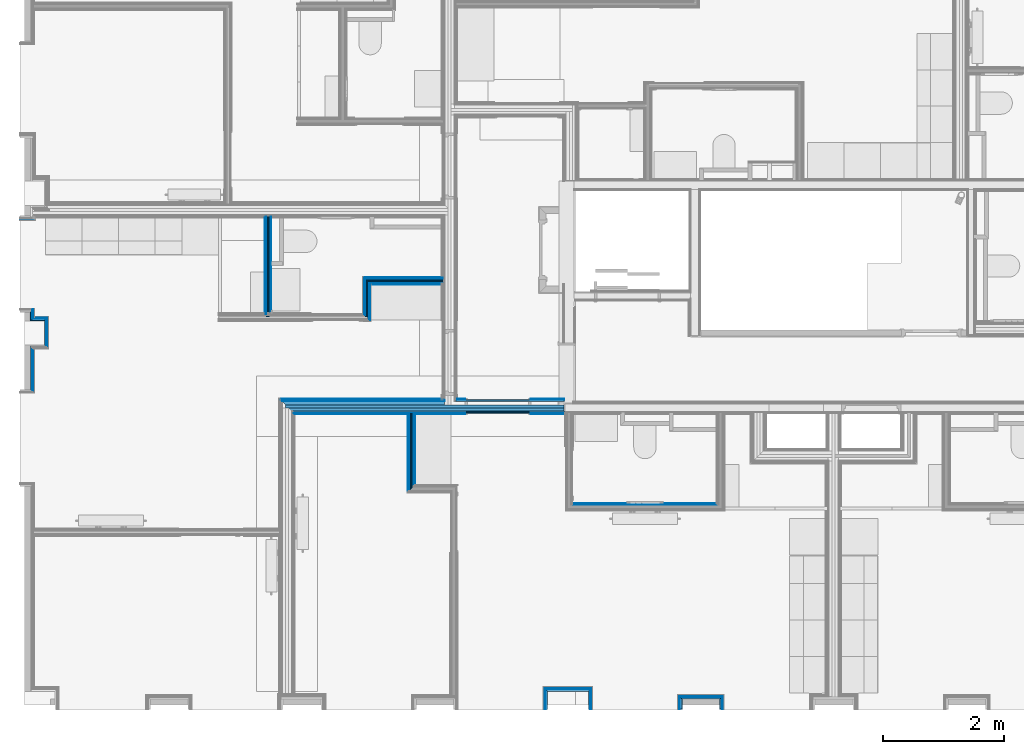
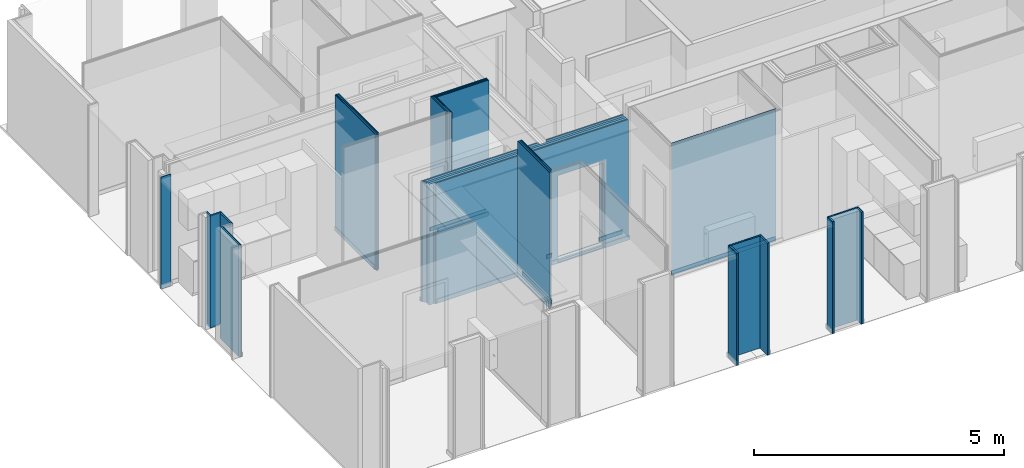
# One storey, part 13 of 65: 61 building element parts, 1 opening, 17 elements without a shape of their own.
"""IFC2X3 building model written with IfcOpenShell, lengths in metres."""

from ifc_helpers import new_model, entity, si_unit, converted_unit, derived_unit, money_unit, direction, frame, frame_2d, origin_with_axes, place, context, subcontext, project, spatial, polyline, rectangle, outline, extrude, material, type_object, element, aggregate, save


model = new_model("IFC2X3")

# Units and contexts
model_context = context("Model", 3, precision=1e-05, world=origin_with_axes(), true_north=direction((0.0, 1.0)))
body_context = subcontext(model_context, "Body", "Model", "MODEL_VIEW", scale=1.0)
ifc_project = project(units=[si_unit("LENGTHUNIT", "METRE"), si_unit("AREAUNIT", "SQUARE_METRE"), si_unit("VOLUMEUNIT", "CUBIC_METRE"), si_unit("ABSORBEDDOSEUNIT", "GRAY"), si_unit("AMOUNTOFSUBSTANCEUNIT", "MOLE"), si_unit("DOSEEQUIVALENTUNIT", "SIEVERT"), si_unit("ELECTRICCAPACITANCEUNIT", "FARAD"), si_unit("ELECTRICCHARGEUNIT", "COULOMB"), si_unit("ELECTRICCONDUCTANCEUNIT", "SIEMENS"), si_unit("ELECTRICCURRENTUNIT", "AMPERE"), si_unit("ELECTRICRESISTANCEUNIT", "OHM"), si_unit("ELECTRICVOLTAGEUNIT", "VOLT"), si_unit("ENERGYUNIT", "JOULE"), si_unit("FORCEUNIT", "NEWTON"), si_unit("FREQUENCYUNIT", "HERTZ"), si_unit("ILLUMINANCEUNIT", "LUX"), si_unit("INDUCTANCEUNIT", "HENRY"), si_unit("LUMINOUSFLUXUNIT", "LUMEN"), si_unit("LUMINOUSINTENSITYUNIT", "CANDELA"), si_unit("MAGNETICFLUXDENSITYUNIT", "TESLA"), si_unit("MAGNETICFLUXUNIT", "WEBER"), si_unit("MASSUNIT", "GRAM"), converted_unit("PLANEANGLEUNIT", "degree", entity("IfcReal", 0.0174532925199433), si_unit("PLANEANGLEUNIT", "RADIAN"), dimensions=[0, 0, 0, 0, 0, 0, 0]), si_unit("POWERUNIT", "WATT"), si_unit("PRESSUREUNIT", "PASCAL"), si_unit("RADIOACTIVITYUNIT", "BECQUEREL"), si_unit("SOLIDANGLEUNIT", "STERADIAN"), si_unit("THERMODYNAMICTEMPERATUREUNIT", "KELVIN"), si_unit("TIMEUNIT", "SECOND"), derived_unit("ACCELERATIONUNIT", [(si_unit("LENGTHUNIT", "METRE"), 1), (si_unit("TIMEUNIT", "SECOND"), -2)]), derived_unit("ANGULARVELOCITYUNIT", [(converted_unit("PLANEANGLEUNIT", "degree", entity("IfcReal", 0.0174532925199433), si_unit("PLANEANGLEUNIT", "RADIAN"), dimensions=[0, 0, 0, 0, 0, 0, 0]), 1), (si_unit("TIMEUNIT", "SECOND"), -1)]), derived_unit("CURVATUREUNIT", [(converted_unit("PLANEANGLEUNIT", "degree", entity("IfcReal", 0.0174532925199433), si_unit("PLANEANGLEUNIT", "RADIAN"), dimensions=[0, 0, 0, 0, 0, 0, 0]), 1), (si_unit("LENGTHUNIT", "METRE"), -1)]), derived_unit("DYNAMICVISCOSITYUNIT", [(si_unit("PRESSUREUNIT", "PASCAL"), 1), (si_unit("TIMEUNIT", "SECOND"), 1)]), derived_unit("HEATFLUXDENSITYUNIT", [(si_unit("POWERUNIT", "WATT"), 1), (si_unit("LENGTHUNIT", "METRE"), -2)]), derived_unit("HEATINGVALUEUNIT", [(si_unit("ENERGYUNIT", "JOULE"), 1), (si_unit("MASSUNIT", "GRAM"), -1)]), derived_unit("INTEGERCOUNTRATEUNIT", [(si_unit("TIMEUNIT", "SECOND"), -1)]), derived_unit("IONCONCENTRATIONUNIT", [(si_unit("MASSUNIT", "GRAM"), 1), (si_unit("VOLUMEUNIT", "CUBIC_METRE"), -1)]), derived_unit("ISOTHERMALMOISTURECAPACITYUNIT", [(si_unit("VOLUMEUNIT", "CUBIC_METRE"), 1), (si_unit("MASSUNIT", "GRAM"), -1)]), derived_unit("KINEMATICVISCOSITYUNIT", [(si_unit("AREAUNIT", "SQUARE_METRE"), 1), (si_unit("TIMEUNIT", "SECOND"), -1)]), derived_unit("LINEARFORCEUNIT", [(si_unit("FORCEUNIT", "NEWTON"), 1), (si_unit("LENGTHUNIT", "METRE"), -1)]), derived_unit("LINEARMOMENTUNIT", [(si_unit("FORCEUNIT", "NEWTON"), 1), (si_unit("LENGTHUNIT", "METRE"), -1)]), derived_unit("LINEARSTIFFNESSUNIT", [(si_unit("FORCEUNIT", "NEWTON"), 1), (si_unit("LENGTHUNIT", "METRE"), -1)]), derived_unit("LINEARVELOCITYUNIT", [(si_unit("LENGTHUNIT", "METRE"), 1), (si_unit("TIMEUNIT", "SECOND"), -1)]), derived_unit("LUMINOUSINTENSITYDISTRIBUTIONUNIT", [(si_unit("LUMINOUSINTENSITYUNIT", "CANDELA"), 1), (si_unit("LUMINOUSFLUXUNIT", "LUMEN"), -1)]), derived_unit("MASSDENSITYUNIT", [(si_unit("MASSUNIT", "GRAM"), 1), (si_unit("VOLUMEUNIT", "CUBIC_METRE"), -1)]), derived_unit("MASSFLOWRATEUNIT", [(si_unit("MASSUNIT", "GRAM"), 1), (si_unit("TIMEUNIT", "SECOND"), -1)]), derived_unit("MASSPERLENGTHUNIT", [(si_unit("MASSUNIT", "GRAM"), 1), (si_unit("LENGTHUNIT", "METRE"), -1)]), derived_unit("MODULUSOFELASTICITYUNIT", [(si_unit("FORCEUNIT", "NEWTON"), 1), (si_unit("AREAUNIT", "SQUARE_METRE"), -1)]), derived_unit("MODULUSOFLINEARSUBGRADEREACTIONUNIT", [(si_unit("FORCEUNIT", "NEWTON"), 1), (si_unit("LENGTHUNIT", "METRE"), -2)]), derived_unit("MODULUSOFROTATIONALSUBGRADEREACTIONUNIT", [(si_unit("FORCEUNIT", "NEWTON"), 1), (si_unit("LENGTHUNIT", "METRE"), 1)]), derived_unit("MODULUSOFSUBGRADEREACTIONUNIT", [(si_unit("FORCEUNIT", "NEWTON"), 1), (si_unit("VOLUMEUNIT", "CUBIC_METRE"), -1)]), derived_unit("MOISTUREDIFFUSIVITYUNIT", [(si_unit("VOLUMEUNIT", "CUBIC_METRE"), 1), (si_unit("TIMEUNIT", "SECOND"), -1)]), derived_unit("MOLECULARWEIGHTUNIT", [(si_unit("MASSUNIT", "GRAM"), 1), (si_unit("AMOUNTOFSUBSTANCEUNIT", "MOLE"), -1)]), derived_unit("PLANARFORCEUNIT", [(si_unit("FORCEUNIT", "NEWTON"), 1), (si_unit("LENGTHUNIT", "METRE"), -2)]), derived_unit("ROTATIONALFREQUENCYUNIT", [(si_unit("TIMEUNIT", "SECOND"), -1)]), derived_unit("ROTATIONALMASSUNIT", [(si_unit("MASSUNIT", "GRAM"), 1), (si_unit("LENGTHUNIT", "METRE"), 2)]), derived_unit("ROTATIONALSTIFFNESSUNIT", [(si_unit("FORCEUNIT", "NEWTON"), 1), (si_unit("LENGTHUNIT", "METRE"), 1), (converted_unit("PLANEANGLEUNIT", "degree", entity("IfcReal", 0.0174532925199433), si_unit("PLANEANGLEUNIT", "RADIAN"), dimensions=[0, 0, 0, 0, 0, 0, 0]), -1)]), derived_unit("SECTIONAREAINTEGRALUNIT", [(si_unit("LENGTHUNIT", "METRE"), 5)]), derived_unit("SECTIONMODULUSUNIT", [(si_unit("LENGTHUNIT", "METRE"), 3)]), derived_unit("SHEARMODULUSUNIT", [(si_unit("FORCEUNIT", "NEWTON"), 1), (si_unit("AREAUNIT", "SQUARE_METRE"), -1)]), derived_unit("SOUNDPOWERUNIT", [(si_unit("ENERGYUNIT", "JOULE"), 1), (si_unit("TIMEUNIT", "SECOND"), -1)]), derived_unit("SPECIFICHEATCAPACITYUNIT", [(si_unit("FORCEUNIT", "NEWTON"), 1), (si_unit("MASSUNIT", "GRAM"), -1), (si_unit("THERMODYNAMICTEMPERATUREUNIT", "KELVIN"), -1)]), derived_unit("TEMPERATUREGRADIENTUNIT", [(si_unit("THERMODYNAMICTEMPERATUREUNIT", "KELVIN"), 1), (si_unit("LENGTHUNIT", "METRE"), -1)]), derived_unit("THERMALADMITTANCEUNIT", [(si_unit("POWERUNIT", "WATT"), 1), (si_unit("AREAUNIT", "SQUARE_METRE"), -1), (si_unit("THERMODYNAMICTEMPERATUREUNIT", "KELVIN"), -1)]), derived_unit("THERMALCONDUCTANCEUNIT", [(si_unit("POWERUNIT", "WATT"), 1), (si_unit("LENGTHUNIT", "METRE"), -1), (si_unit("THERMODYNAMICTEMPERATUREUNIT", "KELVIN"), -1)]), derived_unit("THERMALEXPANSIONCOEFFICIENTUNIT", [(si_unit("THERMODYNAMICTEMPERATUREUNIT", "KELVIN"), -1)]), derived_unit("THERMALRESISTANCEUNIT", [(si_unit("AREAUNIT", "SQUARE_METRE"), 1), (si_unit("POWERUNIT", "WATT"), -1)]), derived_unit("THERMALTRANSMITTANCEUNIT", [(si_unit("POWERUNIT", "WATT"), 1), (si_unit("AREAUNIT", "SQUARE_METRE"), -1), (si_unit("THERMODYNAMICTEMPERATUREUNIT", "KELVIN"), -1)]), derived_unit("TORQUEUNIT", [(si_unit("FORCEUNIT", "NEWTON"), 1), (si_unit("LENGTHUNIT", "METRE"), 1)]), derived_unit("VAPORPERMEABILITYUNIT", [(si_unit("MASSUNIT", "GRAM"), 1), (si_unit("TIMEUNIT", "SECOND"), -1)]), derived_unit("VOLUMETRICFLOWRATEUNIT", [(si_unit("VOLUMEUNIT", "CUBIC_METRE"), 1), (si_unit("TIMEUNIT", "SECOND"), -1)]), derived_unit("WARPINGCONSTANTUNIT", [(si_unit("LENGTHUNIT", "METRE"), 6)]), derived_unit("WARPINGMOMENTUNIT", [(si_unit("FORCEUNIT", "NEWTON"), 1), (si_unit("LENGTHUNIT", "METRE"), 2)]), money_unit("GBP")], contexts=[model_context])

# Site, building, storey
site_placement = place(None, origin_with_axes())
site = spatial("IfcSite", under=ifc_project, at=site_placement, Name="Site", CompositionType="ELEMENT")
building_placement = place(site_placement, origin_with_axes())
building = spatial("IfcBuilding", under=site, at=building_placement, Name="Building01", CompositionType="ELEMENT")
storey_placement = place(building_placement, frame((0.0, 0.0, 8.64), z_axis=(0.0, 0.0, 1.0), x_axis=(1.0, 0.0, 0.0)))
storey = spatial("IfcBuildingStorey", under=building, at=storey_placement, Name="2F", CompositionType="ELEMENT", Elevation=8.64)

# Wall, building element parts
wall_type_1 = type_object("IfcWallType", Name="SHE_A-Walls_Type06d_ExternalWallInsulation_48mm", PredefinedType="NOTDEFINED")
wall_1_placement = place(storey_placement, frame((0.27, 6.64418, 0.0), z_axis=(0.0, 0.0, 1.0), x_axis=(0.0, -1.0, 0.0)))
wall_1 = element("IfcWall", 1, at=wall_1_placement, inside=storey, type_object=wall_type_1, Name="6D", ObjectType="SHE_A-Walls_Type06d_ExternalWallInsulation_48mm")
ifc_material_1 = material(Name="A_BSUK_Insulation")
placement_1 = place(wall_1_placement, origin_with_axes())
building_element_part_1 = element("IfcBuildingElementPart", 2, at=placement_1, material=ifc_material_1, Name="1", context=body_context, shape_type="SweptSolid", body=[
    extrude(outline(polyline([(0.10818, 0.036), (-0.036, 0.036), (0.0, 0.0), (0.14418, 0.0), (0.10818, 0.036)])), origin_with_axes(), (0.0, 0.0, 1.0), 2.74),
])
ifc_material_2 = material(Name="A_BSUK_WallInternal_Finishes_Plasterboard")
building_element_part_2 = element("IfcBuildingElementPart", 3, at=placement_1, material=ifc_material_2, Name="2", context=body_context, shape_type="SweptSolid", body=[
    extrude(outline(polyline([(0.09618, 0.048), (-0.048, 0.048), (-0.035, 0.035), (0.10918, 0.035), (0.09618, 0.048)])), origin_with_axes(), (0.0, 0.0, 1.0), 2.74),
])
aggregate(wall_1, [building_element_part_1, building_element_part_2])

wall_2_placement = place(storey_placement, frame((0.27, 6.5, 0.0), z_axis=(0.0, 0.0, 1.0), x_axis=(1.0, 0.0, 0.0)))
wall_2 = element("IfcWall", 4, at=wall_2_placement, inside=storey, type_object=wall_type_1, Name="6D", ObjectType="SHE_A-Walls_Type06d_ExternalWallInsulation_48mm")
placement_2 = place(wall_2_placement, origin_with_axes())
building_element_part_3 = element("IfcBuildingElementPart", 5, at=placement_2, material=ifc_material_1, Name="1", context=body_context, shape_type="SweptSolid", body=[
    extrude(outline(polyline([(0.266, 0.036), (0.036, 0.036), (0.0, 0.0), (0.23, 0.0), (0.266, 0.036)])), origin_with_axes(), (0.0, 0.0, 1.0), 2.74),
])
building_element_part_4 = element("IfcBuildingElementPart", 6, at=placement_2, material=ifc_material_2, Name="2", context=body_context, shape_type="SweptSolid", body=[
    extrude(outline(polyline([(0.278, 0.048), (0.048, 0.048), (0.035, 0.035), (0.265, 0.035), (0.278, 0.048)])), origin_with_axes(), (0.0, 0.0, 1.0), 2.74),
])
aggregate(wall_2, [building_element_part_3, building_element_part_4])

wall_3_placement = place(storey_placement, frame((0.5, 6.5, 0.0), z_axis=(0.0, 0.0, 1.0), x_axis=(0.0, -1.0, 0.0)))
wall_3 = element("IfcWall", 7, at=wall_3_placement, inside=storey, type_object=wall_type_1, Name="6D", ObjectType="SHE_A-Walls_Type06d_ExternalWallInsulation_48mm")
placement_3 = place(wall_3_placement, origin_with_axes())
building_element_part_5 = element("IfcBuildingElementPart", 8, at=placement_3, material=ifc_material_1, Name="1", context=body_context, shape_type="SweptSolid", body=[
    extrude(outline(polyline([(0.436, 0.036), (-0.036, 0.036), (0.0, 0.0), (0.4, 0.0), (0.436, 0.036)])), origin_with_axes(), (0.0, 0.0, 1.0), 2.74),
])
building_element_part_6 = element("IfcBuildingElementPart", 9, at=placement_3, material=ifc_material_2, Name="2", context=body_context, shape_type="SweptSolid", body=[
    extrude(outline(polyline([(0.448, 0.048), (-0.048, 0.048), (-0.035, 0.035), (0.435, 0.035), (0.448, 0.048)])), origin_with_axes(), (0.0, 0.0, 1.0), 2.74),
])
aggregate(wall_3, [building_element_part_5, building_element_part_6])

wall_4_placement = place(storey_placement, frame((0.27, 6.1, 0.0), z_axis=(0.0, 0.0, 1.0), x_axis=(0.0, -1.0, 0.0)))
wall_4 = element("IfcWall", 10, at=wall_4_placement, inside=storey, type_object=wall_type_1, Name="6D", ObjectType="SHE_A-Walls_Type06d_ExternalWallInsulation_48mm")
placement_4 = place(wall_4_placement, origin_with_axes())
building_element_part_7 = element("IfcBuildingElementPart", 11, at=placement_4, material=ifc_material_1, Name="1", context=body_context, shape_type="SweptSolid", body=[
    extrude(outline(polyline([(0.773, 0.036), (0.036, 0.036), (0.0, 0.0), (0.737, 0.0), (0.773, 0.036)])), origin_with_axes(), (0.0, 0.0, 1.0), 2.74),
])
building_element_part_8 = element("IfcBuildingElementPart", 12, at=placement_4, material=ifc_material_2, Name="2", context=body_context, shape_type="SweptSolid", body=[
    extrude(outline(polyline([(0.785, 0.048), (0.048, 0.048), (0.035, 0.035), (0.772, 0.035), (0.785, 0.048)])), origin_with_axes(), (0.0, 0.0, 1.0), 2.74),
])
aggregate(wall_4, [building_element_part_7, building_element_part_8])

wall_5_placement = place(storey_placement, frame((8.79, 0.1, 0.0), z_axis=(0.0, 0.0, 1.0), x_axis=(0.0, 1.0, 0.0)))
wall_5 = element("IfcWall", 13, at=wall_5_placement, inside=storey, type_object=wall_type_1, Name="6D", ObjectType="SHE_A-Walls_Type06d_ExternalWallInsulation_48mm")
placement_5 = place(wall_5_placement, origin_with_axes())
building_element_part_9 = element("IfcBuildingElementPart", 14, at=placement_5, material=ifc_material_1, Name="1", context=body_context, shape_type="SweptSolid", body=[
    extrude(outline(polyline([(0.336, 0.036), (0.0, 0.036), (0.0, 0.0), (0.3, 0.0), (0.336, 0.036)])), origin_with_axes(), (0.0, 0.0, 1.0), 2.74),
])
building_element_part_10 = element("IfcBuildingElementPart", 15, at=placement_5, material=ifc_material_2, Name="2", context=body_context, shape_type="SweptSolid", body=[
    extrude(outline(polyline([(0.348, 0.048), (0.0, 0.048), (0.0, 0.035), (0.335, 0.035), (0.348, 0.048)])), origin_with_axes(), (0.0, 0.0, 1.0), 2.74),
])
aggregate(wall_5, [building_element_part_9, building_element_part_10])

wall_6_placement = place(storey_placement, frame((8.79, 0.4, 0.0), z_axis=(0.0, 0.0, 1.0), x_axis=(1.0, 0.0, 0.0)))
wall_6 = element("IfcWall", 16, at=wall_6_placement, inside=storey, type_object=wall_type_1, Name="6D", ObjectType="SHE_A-Walls_Type06d_ExternalWallInsulation_48mm")
placement_6 = place(wall_6_placement, origin_with_axes())
building_element_part_11 = element("IfcBuildingElementPart", 17, at=placement_6, material=ifc_material_1, Name="1", context=body_context, shape_type="SweptSolid", body=[
    extrude(outline(polyline([(0.706, 0.036), (-0.036, 0.036), (0.0, 0.0), (0.67, 0.0), (0.706, 0.036)])), origin_with_axes(), (0.0, 0.0, 1.0), 2.74),
])
building_element_part_12 = element("IfcBuildingElementPart", 18, at=placement_6, material=ifc_material_2, Name="2", context=body_context, shape_type="SweptSolid", body=[
    extrude(outline(polyline([(0.718, 0.048), (-0.048, 0.048), (-0.035, 0.035), (0.705, 0.035), (0.718, 0.048)])), origin_with_axes(), (0.0, 0.0, 1.0), 2.74),
])
aggregate(wall_6, [building_element_part_11, building_element_part_12])

wall_7_placement = place(storey_placement, frame((9.46, 0.4, 0.0), z_axis=(0.0, 0.0, 1.0), x_axis=(0.0, -1.0, 0.0)))
wall_7 = element("IfcWall", 19, at=wall_7_placement, inside=storey, type_object=wall_type_1, Name="6D", ObjectType="SHE_A-Walls_Type06d_ExternalWallInsulation_48mm")
placement_7 = place(wall_7_placement, origin_with_axes())
building_element_part_13 = element("IfcBuildingElementPart", 20, at=placement_7, material=ifc_material_1, Name="1", context=body_context, shape_type="SweptSolid", body=[
    extrude(outline(polyline([(-0.036, 0.036), (0.0, 0.0), (0.3, 0.0), (0.3, 0.036), (-0.036, 0.036)])), origin_with_axes(), (0.0, 0.0, 1.0), 2.74),
])
building_element_part_14 = element("IfcBuildingElementPart", 21, at=placement_7, material=ifc_material_2, Name="2", context=body_context, shape_type="SweptSolid", body=[
    extrude(outline(polyline([(-0.048, 0.048), (-0.035, 0.035), (0.3, 0.035), (0.3, 0.048), (-0.048, 0.048)])), origin_with_axes(), (0.0, 0.0, 1.0), 2.74),
])
aggregate(wall_7, [building_element_part_13, building_element_part_14])

wall_8_placement = place(storey_placement, frame((11.003, 0.1, 0.0), z_axis=(0.0, 0.0, 1.0), x_axis=(0.0, 1.0, 0.0)))
wall_8 = element("IfcWall", 22, at=wall_8_placement, inside=storey, type_object=wall_type_1, Name="6D", ObjectType="SHE_A-Walls_Type06d_ExternalWallInsulation_48mm")
placement_8 = place(wall_8_placement, origin_with_axes())
building_element_part_15 = element("IfcBuildingElementPart", 23, at=placement_8, material=ifc_material_1, Name="1", context=body_context, shape_type="SweptSolid", body=[
    extrude(outline(polyline([(0.206, 0.036), (0.0, 0.036), (0.0, 0.0), (0.17, 0.0), (0.206, 0.036)])), origin_with_axes(), (0.0, 0.0, 1.0), 2.74),
])
building_element_part_16 = element("IfcBuildingElementPart", 24, at=placement_8, material=ifc_material_2, Name="2", context=body_context, shape_type="SweptSolid", body=[
    extrude(outline(polyline([(0.218, 0.048), (0.0, 0.048), (0.0, 0.035), (0.205, 0.035), (0.218, 0.048)])), origin_with_axes(), (0.0, 0.0, 1.0), 2.74),
])
aggregate(wall_8, [building_element_part_15, building_element_part_16])

wall_9_placement = place(storey_placement, frame((11.003, 0.27, 0.0), z_axis=(0.0, 0.0, 1.0), x_axis=(1.0, 0.0, 0.0)))
wall_9 = element("IfcWall", 25, at=wall_9_placement, inside=storey, type_object=wall_type_1, Name="6D", ObjectType="SHE_A-Walls_Type06d_ExternalWallInsulation_48mm")
placement_9 = place(wall_9_placement, origin_with_axes())
building_element_part_17 = element("IfcBuildingElementPart", 26, at=placement_9, material=ifc_material_1, Name="1", context=body_context, shape_type="SweptSolid", body=[
    extrude(outline(polyline([(0.66, 0.036), (-0.036, 0.036), (0.0, 0.0), (0.624, 0.0), (0.66, 0.036)])), origin_with_axes(), (0.0, 0.0, 1.0), 2.74),
])
building_element_part_18 = element("IfcBuildingElementPart", 27, at=placement_9, material=ifc_material_2, Name="2", context=body_context, shape_type="SweptSolid", body=[
    extrude(outline(polyline([(0.672, 0.048), (-0.048, 0.048), (-0.035, 0.035), (0.659, 0.035), (0.672, 0.048)])), origin_with_axes(), (0.0, 0.0, 1.0), 2.74),
])
aggregate(wall_9, [building_element_part_17, building_element_part_18])

wall_10_placement = place(storey_placement, frame((11.627, 0.27, 0.0), z_axis=(0.0, 0.0, 1.0), x_axis=(0.0, -1.0, 0.0)))
wall_10 = element("IfcWall", 28, at=wall_10_placement, inside=storey, type_object=wall_type_1, Name="6D", ObjectType="SHE_A-Walls_Type06d_ExternalWallInsulation_48mm")
placement_10 = place(wall_10_placement, origin_with_axes())
building_element_part_19 = element("IfcBuildingElementPart", 29, at=placement_10, material=ifc_material_1, Name="1", context=body_context, shape_type="SweptSolid", body=[
    extrude(outline(polyline([(-0.036, 0.036), (0.0, 0.0), (0.17, 0.0), (0.17, 0.036), (-0.036, 0.036)])), origin_with_axes(), (0.0, 0.0, 1.0), 2.74),
])
building_element_part_20 = element("IfcBuildingElementPart", 30, at=placement_10, material=ifc_material_2, Name="2", context=body_context, shape_type="SweptSolid", body=[
    extrude(outline(polyline([(-0.048, 0.048), (-0.035, 0.035), (0.17, 0.035), (0.17, 0.048), (-0.048, 0.048)])), origin_with_axes(), (0.0, 0.0, 1.0), 2.74),
])
aggregate(wall_10, [building_element_part_19, building_element_part_20])

wall_type_2 = type_object("IfcWallType", Name="SHE_A-Walls_Type05a_Partition_95mm_tall", PredefinedType="NOTDEFINED")
wall_11_placement = place(storey_placement, frame((4.20573, 6.571475, 0.0), z_axis=(0.0, 0.0, 1.0), x_axis=(0.0, 1.0, 0.0)))
wall_11 = element("IfcWall", 31, at=wall_11_placement, inside=storey, type_object=wall_type_2, Name="5A", ObjectType="SHE_A-Walls_Type05a_Partition_95mm_tall")
placement_11 = place(wall_11_placement, origin_with_axes())
building_element_part_21 = element("IfcBuildingElementPart", 32, at=placement_11, material=ifc_material_2, Name="2", context=body_context, shape_type="SweptSolid", body=[
    extrude(rectangle(XDim=1.604195, YDim=0.012, at=frame_2d((0.837097, -0.029), x_axis=(-1.0, 0.0))), origin_with_axes(), (0.0, 0.0, 1.0), 3.32),
])
ifc_material_3 = material(Name="Air Cavity")
building_element_part_22 = element("IfcBuildingElementPart", 33, at=placement_11, material=ifc_material_3, Name="3", context=body_context, shape_type="SweptSolid", body=[
    extrude(rectangle(XDim=1.604195, YDim=0.023, at=frame_2d((0.837097, -0.0115), x_axis=(-1.0, 0.0))), origin_with_axes(), (0.0, 0.0, 1.0), 3.32),
])
building_element_part_23 = element("IfcBuildingElementPart", 34, at=placement_11, material=ifc_material_1, Name="4", context=body_context, shape_type="SweptSolid", body=[
    extrude(rectangle(XDim=1.639195, YDim=0.025, at=frame_2d((0.819597, 0.0125), x_axis=(-1.0, 0.0))), origin_with_axes(), (0.0, 0.0, 1.0), 3.32),
])
building_element_part_24 = element("IfcBuildingElementPart", 35, at=placement_11, material=ifc_material_3, Name="5", context=body_context, shape_type="SweptSolid", body=[
    extrude(rectangle(XDim=1.639195, YDim=0.023, at=frame_2d((0.819597, 0.0365), x_axis=(-1.0, 0.0))), origin_with_axes(), (0.0, 0.0, 1.0), 3.32),
])
building_element_part_25 = element("IfcBuildingElementPart", 36, at=placement_11, material=ifc_material_2, Name="6", context=body_context, shape_type="SweptSolid", body=[
    extrude(rectangle(XDim=1.604195, YDim=0.012, at=frame_2d((0.837097, 0.054), x_axis=(-1.0, 0.0))), origin_with_axes(), (0.0, 0.0, 1.0), 3.32),
])
ifc_material_4 = material(Name="A_BSUK_Walls_Timber")
building_element_part_26 = element("IfcBuildingElementPart", 37, at=placement_11, material=ifc_material_4, Name="7", context=body_context, shape_type="SweptSolid", body=[
    extrude(rectangle(XDim=1.574195, YDim=0.015, at=frame_2d((0.837097, 0.0675), x_axis=(-1.0, 0.0))), frame((0.0, 0.0, 0.015), z_axis=(0.0, 0.0, 1.0), x_axis=(1.0, 0.0, 0.0)), (0.0, 0.0, 1.0), 0.1),
])
aggregate(wall_11, [building_element_part_21, building_element_part_22, building_element_part_23, building_element_part_24, building_element_part_25, building_element_part_26])

# Wall, opening, building element parts
wall_type_3 = type_object("IfcWallType", Name="SHE_A-Walls_Type01c_Partywall_225mm_twin_tall", PredefinedType="NOTDEFINED")
wall_12_placement = place(storey_placement, frame((9.06, 5.117, 0.0), z_axis=(0.0, 0.0, 1.0), x_axis=(-1.0, 0.0, 0.0)))
wall_12 = element("IfcWall", 38, at=wall_12_placement, inside=storey, type_object=wall_type_3, Name="1C", ObjectType="SHE_A-Walls_Type01c_Partywall_225mm_twin_tall")
opening_placement = place(wall_12_placement, frame((0.5455, -0.103, 0.004), z_axis=(0.0, 0.0, 1.0), x_axis=(1.0, 0.0, 0.0)))
element("IfcOpeningElement", 39, at=opening_placement, cuts=wall_12, Name="Opening", ObjectType="Opening", context=body_context, shape_type="SweptSolid", body=[
    extrude(rectangle(XDim=2.142, YDim=1.084, at=frame_2d((-0.542, 1.071), x_axis=(0.0, -1.0))), frame((0.0, 0.0, 0.0), z_axis=(0.0, 1.0, 0.0), x_axis=(-1.0, 0.0, 0.0)), (0.0, 0.0, 1.0), 0.255),
])
placement_12 = place(wall_12_placement, origin_with_axes())
building_element_part_27 = element("IfcBuildingElementPart", 40, at=placement_12, material=ifc_material_4, Name="1", context=body_context, shape_type="SweptSolid", body=[
    extrude(rectangle(XDim=1.755331, YDim=0.015, at=frame_2d((0.877666, -0.0955), x_axis=(-1.0, 0.0))), frame((0.0, 0.0, 0.015), z_axis=(0.0, 0.0, 1.0), x_axis=(1.0, 0.0, 0.0)), (0.0, 0.0, 1.0), 0.1),
])
building_element_part_28 = element("IfcBuildingElementPart", 41, at=placement_12, material=ifc_material_4, Name="2", context=body_context, shape_type="SweptSolid", body=[
    extrude(outline(polyline([(4.675, -0.088), (2.010331, -0.088), (2.010331, -0.103), (4.69, -0.103), (4.675, -0.088)])), frame((0.0, 0.0, 0.015), z_axis=(0.0, 0.0, 1.0), x_axis=(1.0, 0.0, 0.0)), (0.0, 0.0, 1.0), 0.1),
])
building_element_part_29 = element("IfcBuildingElementPart", 42, at=placement_12, material=ifc_material_2, Name="3", context=body_context, shape_type="SweptSolid", body=[
    extrude(rectangle(XDim=1.770331, YDim=0.015, at=frame_2d((0.885166, -0.0805), x_axis=(-1.0, 0.0))), origin_with_axes(), (0.0, 0.0, 1.0), 2.95),
])
building_element_part_30 = element("IfcBuildingElementPart", 43, at=placement_12, material=ifc_material_2, Name="4", context=body_context, shape_type="SweptSolid", body=[
    extrude(outline(polyline([(4.66, -0.073), (1.980331, -0.073), (1.980331, -0.088), (4.675, -0.088), (4.66, -0.073)])), origin_with_axes(), (0.0, 0.0, 1.0), 2.95),
])
building_element_part_31 = element("IfcBuildingElementPart", 44, at=placement_12, material=ifc_material_2, Name="5", context=body_context, shape_type="SweptSolid", body=[
    extrude(rectangle(XDim=1.785331, YDim=0.015, at=frame_2d((0.892666, -0.0655), x_axis=(-1.0, 0.0))), origin_with_axes(), (0.0, 0.0, 1.0), 2.95),
])
building_element_part_32 = element("IfcBuildingElementPart", 45, at=placement_12, material=ifc_material_2, Name="6", context=body_context, shape_type="SweptSolid", body=[
    extrude(outline(polyline([(4.645, -0.058), (1.965331, -0.058), (1.965331, -0.073), (4.66, -0.073), (4.645, -0.058)])), origin_with_axes(), (0.0, 0.0, 1.0), 2.95),
])
building_element_part_33 = element("IfcBuildingElementPart", 46, at=placement_12, material=ifc_material_3, Name="7", context=body_context, shape_type="SweptSolid", body=[
    extrude(outline(polyline([(4.587, 0.0), (1.965331, 0.0), (1.965331, -0.058), (4.645, -0.058), (4.587, 0.0)])), origin_with_axes(), (0.0, 0.0, 1.0), 2.95),
])
building_element_part_34 = element("IfcBuildingElementPart", 47, at=placement_12, material=ifc_material_1, Name="8", context=body_context, shape_type="SweptSolid", body=[
    extrude(rectangle(XDim=4.588, YDim=0.05, at=frame_2d((2.294, 0.025), x_axis=(-1.0, 0.0))), origin_with_axes(), (0.0, 0.0, 1.0), 2.95),
])
building_element_part_35 = element("IfcBuildingElementPart", 48, at=placement_12, material=ifc_material_3, Name="9", context=body_context, shape_type="SweptSolid", body=[
    extrude(rectangle(XDim=4.588, YDim=0.057, at=frame_2d((2.294, 0.0785), x_axis=(-1.0, 0.0))), origin_with_axes(), (0.0, 0.0, 1.0), 2.95),
])
building_element_part_36 = element("IfcBuildingElementPart", 49, at=placement_12, material=ifc_material_2, Name="10", context=body_context, shape_type="SweptSolid", body=[
    extrude(outline(polyline([(4.465, 0.122), (0.0, 0.122), (0.0, 0.107), (4.48, 0.107), (4.465, 0.122)])), origin_with_axes(), (0.0, 0.0, 1.0), 2.95),
])
building_element_part_37 = element("IfcBuildingElementPart", 50, at=placement_12, material=ifc_material_2, Name="11", context=body_context, shape_type="SweptSolid", body=[
    extrude(outline(polyline([(4.45, 0.137), (0.0, 0.137), (0.0, 0.122), (4.465, 0.122), (4.45, 0.137)])), origin_with_axes(), (0.0, 0.0, 1.0), 2.95),
])
building_element_part_38 = element("IfcBuildingElementPart", 51, at=placement_12, material=ifc_material_4, Name="12", context=body_context, shape_type="SweptSolid", body=[
    extrude(outline(polyline([(4.435, 0.152), (-0.022536, 0.152), (-0.022536, 0.137), (4.45, 0.137), (4.435, 0.152)])), frame((0.0, 0.0, 0.015), z_axis=(0.0, 0.0, 1.0), x_axis=(1.0, 0.0, 0.0)), (0.0, 0.0, 1.0), 0.1),
])
building_element_part_39 = element("IfcBuildingElementPart", 52, at=placement_12, material=ifc_material_4, Name="13", context=body_context, shape_type="SweptSolid", body=[
    extrude(outline(polyline([(4.435, 0.152), (2.56, 0.152), (2.56, 0.137), (4.45, 0.137), (4.435, 0.152)])), frame((0.0, 0.0, 0.015), z_axis=(0.0, 0.0, 1.0), x_axis=(1.0, 0.0, 0.0)), (0.0, 0.0, 1.0), 0.1),
])
aggregate(wall_12, [building_element_part_27, building_element_part_28, building_element_part_29, building_element_part_30, building_element_part_31, building_element_part_32, building_element_part_33, building_element_part_34, building_element_part_35, building_element_part_36, building_element_part_37, building_element_part_38, building_element_part_39])

# Wall, building element parts
wall_13_placement = place(storey_placement, frame((5.804669, 6.571475, 0.0), z_axis=(0.0, 0.0, 1.0), x_axis=(0.0, 1.0, 0.0)))
wall_13 = element("IfcWall", 53, at=wall_13_placement, inside=storey, type_object=wall_type_2, Name="5A", ObjectType="SHE_A-Walls_Type05a_Partition_95mm_tall")
placement_13 = place(wall_13_placement, origin_with_axes())
building_element_part_40 = element("IfcBuildingElementPart", 54, at=placement_13, material=ifc_material_2, Name="2", context=body_context, shape_type="SweptSolid", body=[
    extrude(outline(polyline([(0.552, -0.048), (-0.048, -0.048), (-0.06, -0.06), (0.54, -0.06), (0.552, -0.048)])), origin_with_axes(), (0.0, 0.0, 1.0), 3.32),
])
building_element_part_41 = element("IfcBuildingElementPart", 55, at=placement_13, material=ifc_material_3, Name="3", context=body_context, shape_type="SweptSolid", body=[
    extrude(outline(polyline([(0.575, -0.025), (-0.025, -0.025), (-0.048, -0.048), (0.552, -0.048), (0.575, -0.025)])), origin_with_axes(), (0.0, 0.0, 1.0), 3.32),
])
building_element_part_42 = element("IfcBuildingElementPart", 56, at=placement_13, material=ifc_material_1, Name="4", context=body_context, shape_type="SweptSolid", body=[
    extrude(outline(polyline([(0.6, 0.0), (0.0, 0.0), (0.0, -0.025), (0.575, -0.025), (0.6, 0.0)])), origin_with_axes(), (0.0, 0.0, 1.0), 3.32),
])
building_element_part_43 = element("IfcBuildingElementPart", 57, at=placement_13, material=ifc_material_3, Name="5", context=body_context, shape_type="SweptSolid", body=[
    extrude(outline(polyline([(0.623, 0.023), (0.0, 0.023), (0.0, 0.0), (0.6, 0.0), (0.623, 0.023)])), origin_with_axes(), (0.0, 0.0, 1.0), 3.32),
])
building_element_part_44 = element("IfcBuildingElementPart", 58, at=placement_13, material=ifc_material_2, Name="6", context=body_context, shape_type="SweptSolid", body=[
    extrude(outline(polyline([(0.635, 0.035), (0.035, 0.035), (0.023, 0.023), (0.623, 0.023), (0.635, 0.035)])), origin_with_axes(), (0.0, 0.0, 1.0), 3.32),
])
aggregate(wall_13, [building_element_part_40, building_element_part_41, building_element_part_42, building_element_part_43, building_element_part_44])

wall_14_placement = place(storey_placement, frame((5.804669, 7.171475, 0.0), z_axis=(0.0, 0.0, 1.0), x_axis=(1.0, 0.0, 0.0)))
wall_14 = element("IfcWall", 59, at=wall_14_placement, inside=storey, type_object=wall_type_2, Name="5A", ObjectType="SHE_A-Walls_Type05a_Partition_95mm_tall")
placement_14 = place(wall_14_placement, origin_with_axes())
building_element_part_45 = element("IfcBuildingElementPart", 60, at=placement_14, material=ifc_material_4, Name="1", context=body_context, shape_type="SweptSolid", body=[
    extrude(outline(polyline([(1.245, -0.06), (0.06, -0.06), (0.075, -0.075), (1.245, -0.075), (1.245, -0.06)])), frame((0.0, 0.0, 0.015), z_axis=(0.0, 0.0, 1.0), x_axis=(1.0, 0.0, 0.0)), (0.0, 0.0, 1.0), 0.1),
])
building_element_part_46 = element("IfcBuildingElementPart", 61, at=placement_14, material=ifc_material_2, Name="2", context=body_context, shape_type="SweptSolid", body=[
    extrude(outline(polyline([(1.26, -0.048), (0.048, -0.048), (0.06, -0.06), (1.26, -0.06), (1.26, -0.048)])), origin_with_axes(), (0.0, 0.0, 1.0), 3.32),
])
building_element_part_47 = element("IfcBuildingElementPart", 62, at=placement_14, material=ifc_material_3, Name="3", context=body_context, shape_type="SweptSolid", body=[
    extrude(outline(polyline([(1.26, -0.025), (0.025, -0.025), (0.048, -0.048), (1.26, -0.048), (1.26, -0.025)])), origin_with_axes(), (0.0, 0.0, 1.0), 3.32),
])
building_element_part_48 = element("IfcBuildingElementPart", 63, at=placement_14, material=ifc_material_1, Name="4", context=body_context, shape_type="SweptSolid", body=[
    extrude(outline(polyline([(1.26, 0.0), (0.0, 0.0), (0.025, -0.025), (1.26, -0.025), (1.26, 0.0)])), origin_with_axes(), (0.0, 0.0, 1.0), 3.32),
])
building_element_part_49 = element("IfcBuildingElementPart", 64, at=placement_14, material=ifc_material_3, Name="5", context=body_context, shape_type="SweptSolid", body=[
    extrude(outline(polyline([(1.26, 0.023), (-0.023, 0.023), (0.0, 0.0), (1.26, 0.0), (1.26, 0.023)])), origin_with_axes(), (0.0, 0.0, 1.0), 3.32),
])
building_element_part_50 = element("IfcBuildingElementPart", 65, at=placement_14, material=ifc_material_2, Name="6", context=body_context, shape_type="SweptSolid", body=[
    extrude(outline(polyline([(1.26, 0.035), (-0.035, 0.035), (-0.023, 0.023), (1.26, 0.023), (1.26, 0.035)])), origin_with_axes(), (0.0, 0.0, 1.0), 3.32),
])
building_element_part_51 = element("IfcBuildingElementPart", 66, at=placement_14, material=ifc_material_4, Name="7", context=body_context, shape_type="SweptSolid", body=[
    extrude(outline(polyline([(1.245, 0.05), (-0.05, 0.05), (-0.035, 0.035), (1.245, 0.035), (1.245, 0.05)])), frame((0.0, 0.0, 0.015), z_axis=(0.0, 0.0, 1.0), x_axis=(1.0, 0.0, 0.0)), (0.0, 0.0, 1.0), 0.1),
])
aggregate(wall_14, [building_element_part_45, building_element_part_46, building_element_part_47, building_element_part_48, building_element_part_49, building_element_part_50, building_element_part_51])

wall_15_placement = place(storey_placement, frame((9.132536, 3.42, 0.0), z_axis=(0.0, 0.0, 1.0), x_axis=(-1.0, 0.0, 0.0)))
wall_15 = element("IfcWall", 67, at=wall_15_placement, inside=storey, type_object=wall_type_2, Name="5A", ObjectType="SHE_A-Walls_Type05a_Partition_95mm_tall")
placement_15 = place(wall_15_placement, origin_with_axes())
building_element_part_52 = element("IfcBuildingElementPart", 68, at=placement_15, material=ifc_material_4, Name="1", context=body_context, shape_type="SweptSolid", body=[
    extrude(outline(polyline([(-2.445, -0.075), (-0.06, -0.075), (-0.06, -0.06), (-2.46, -0.06), (-2.445, -0.075)])), frame((0.0, 0.0, 0.015), z_axis=(0.0, 0.0, 1.0), x_axis=(1.0, 0.0, 0.0)), (0.0, 0.0, 1.0), 0.1),
])
building_element_part_53 = element("IfcBuildingElementPart", 69, at=placement_15, material=ifc_material_2, Name="2", context=body_context, shape_type="SweptSolid", body=[
    extrude(outline(polyline([(-2.46, -0.06), (-0.06, -0.06), (-0.048, -0.048), (-2.472, -0.048), (-2.46, -0.06)])), origin_with_axes(), (0.0, 0.0, 1.0), 3.24),
])
aggregate(wall_15, [building_element_part_52, building_element_part_53])

wall_16_placement = place(storey_placement, frame((6.535, 3.72, 0.0), z_axis=(0.0, 0.0, 1.0), x_axis=(0.0, 1.0, 0.0)))
wall_16 = element("IfcWall", 70, at=wall_16_placement, inside=storey, type_object=wall_type_2, Name="5A", ObjectType="SHE_A-Walls_Type05a_Partition_95mm_tall")
placement_16 = place(wall_16_placement, origin_with_axes())
building_element_part_54 = element("IfcBuildingElementPart", 71, at=placement_16, material=ifc_material_4, Name="1", context=body_context, shape_type="SweptSolid", body=[
    extrude(outline(polyline([(1.245, -0.06), (0.06, -0.06), (0.075, -0.075), (1.245, -0.075), (1.245, -0.06)])), frame((0.0, 0.0, 0.015), z_axis=(0.0, 0.0, 1.0), x_axis=(1.0, 0.0, 0.0)), (0.0, 0.0, 1.0), 0.1),
])
building_element_part_55 = element("IfcBuildingElementPart", 72, at=placement_16, material=ifc_material_2, Name="2", context=body_context, shape_type="SweptSolid", body=[
    extrude(outline(polyline([(1.26, -0.048), (0.048, -0.048), (0.06, -0.06), (1.26, -0.06), (1.26, -0.048)])), origin_with_axes(), (0.0, 0.0, 1.0), 3.32),
])
building_element_part_56 = element("IfcBuildingElementPart", 73, at=placement_16, material=ifc_material_3, Name="3", context=body_context, shape_type="SweptSolid", body=[
    extrude(outline(polyline([(1.26, -0.025), (0.025, -0.025), (0.048, -0.048), (1.26, -0.048), (1.26, -0.025)])), origin_with_axes(), (0.0, 0.0, 1.0), 3.32),
])
building_element_part_57 = element("IfcBuildingElementPart", 74, at=placement_16, material=ifc_material_1, Name="4", context=body_context, shape_type="SweptSolid", body=[
    extrude(outline(polyline([(1.26, 0.0), (0.0, 0.0), (0.025, -0.025), (1.26, -0.025), (1.26, 0.0)])), origin_with_axes(), (0.0, 0.0, 1.0), 3.32),
])
building_element_part_58 = element("IfcBuildingElementPart", 75, at=placement_16, material=ifc_material_3, Name="5", context=body_context, shape_type="SweptSolid", body=[
    extrude(outline(polyline([(1.26, 0.023), (-0.023, 0.023), (0.0, 0.0), (1.26, 0.0), (1.26, 0.023)])), origin_with_axes(), (0.0, 0.0, 1.0), 3.32),
])
building_element_part_59 = element("IfcBuildingElementPart", 76, at=placement_16, material=ifc_material_2, Name="6", context=body_context, shape_type="SweptSolid", body=[
    extrude(outline(polyline([(1.26, 0.035), (-0.035, 0.035), (-0.023, 0.023), (1.26, 0.023), (1.26, 0.035)])), origin_with_axes(), (0.0, 0.0, 1.0), 3.32),
])
building_element_part_60 = element("IfcBuildingElementPart", 77, at=placement_16, material=ifc_material_4, Name="7", context=body_context, shape_type="SweptSolid", body=[
    extrude(outline(polyline([(1.245, 0.05), (-0.05, 0.05), (-0.035, 0.035), (1.245, 0.035), (1.245, 0.05)])), frame((0.0, 0.0, 0.015), z_axis=(0.0, 0.0, 1.0), x_axis=(1.0, 0.0, 0.0)), (0.0, 0.0, 1.0), 0.1),
])
aggregate(wall_16, [building_element_part_54, building_element_part_55, building_element_part_56, building_element_part_57, building_element_part_58, building_element_part_59, building_element_part_60])

# Wall, building element part
wall_type_4 = type_object("IfcWallType", Name="SHE_A-Walls_Type06f_ExternalWallInsulation_48+15mm", PredefinedType="NOTDEFINED")
wall_17_placement = place(storey_placement, frame((0.27, 8.233, 0.0), z_axis=(0.0, 0.0, 1.0), x_axis=(-1.0, 0.0, 0.0)))
wall_17 = element("IfcWall", 78, at=wall_17_placement, inside=storey, type_object=wall_type_4, Name="6F", ObjectType="SHE_A-Walls_Type06f_ExternalWallInsulation_48+15mm")
building_element_part_61_placement = place(wall_17_placement, origin_with_axes())
building_element_part_61 = element("IfcBuildingElementPart", 79, at=building_element_part_61_placement, material=ifc_material_2, Name="3", context=body_context, shape_type="SweptSolid", body=[
    extrude(outline(polyline([(0.17, 0.063), (-0.063, 0.063), (-0.048, 0.048), (0.17, 0.048), (0.17, 0.063)])), origin_with_axes(), (0.0, 0.0, 1.0), 2.74),
])
aggregate(wall_17, [building_element_part_61])

save(model, "model.ifc")
